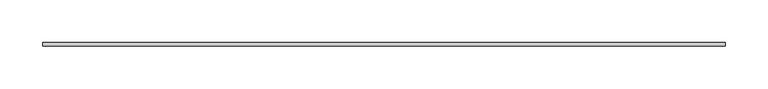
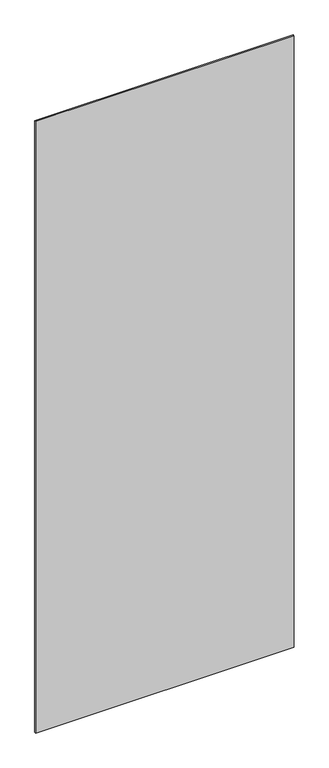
"""IFC4 building model written with IfcOpenShell, lengths in millimetres: proxy geometry, AQUAPANEL showcase solid : AQUAPANEL showcase solid."""

from ifc_helpers import new_model, si_unit, origin, origin_with_axes, place, context, project, spatial, polyline, outline, extrude, source, transform, mapped, element, save


def generic_models_45147860(model_context):
    return source(origin(), model_context, "Body", "SweptSolid", [
        extrude(outline(polyline([(17886.0136184, 15437.3863455), (18686.0136184, 15437.3863455), (18686.0136184, 15433.3863455), (17886.0136184, 15433.3863455), (17886.0136184, 15437.3863455)])), origin_with_axes(), (0.0, 0.0, 1.0), 2000.0),
    ])


if __name__ == "__main__":
    model = new_model("IFC4")
    model_context = context("Model", 3, world=origin())
    ifc_project = project(units=[si_unit("LENGTHUNIT", "METRE", prefix="MILLI")], contexts=[model_context])
    site = spatial("IfcSite", under=ifc_project)
    building = spatial("IfcBuilding", under=site)
    placement = place(None, origin())
    generic_models_shape = generic_models_45147860(model_context)
    element("IfcBuildingElementProxy", 1, Name="AQUAPANEL showcase solid : AQUAPANEL showcase solid", ObjectType="AQUAPANEL showcase solid : AQUAPANEL showcase solid", at=placement, inside=building, context=model_context, shape_type="MappedRepresentation", body=[
        mapped(generic_models_shape, transform((0.0, 0.0, 0.0), x_axis=(1.0, 0.0, 0.0), y_axis=(0.0, 1.0, 0.0), z_axis=(0.0, 0.0, 1.0))),
    ])
    save(model, "model.ifc")
